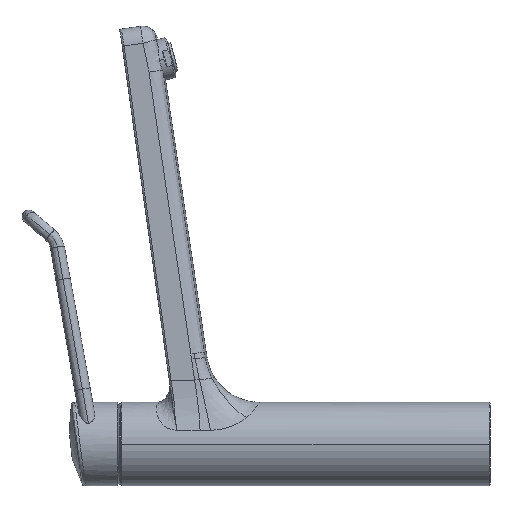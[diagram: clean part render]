
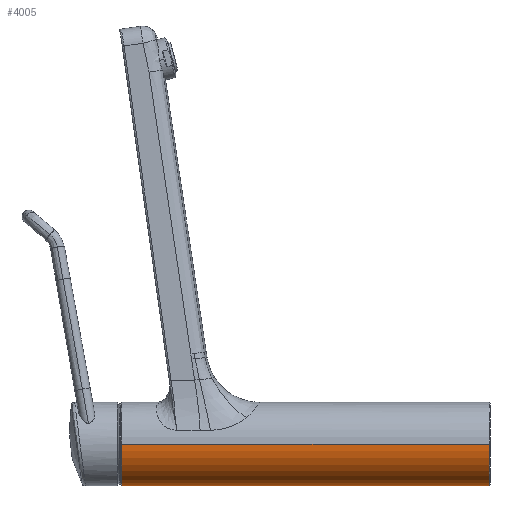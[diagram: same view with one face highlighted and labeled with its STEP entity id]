
A CAD part, left-side view. The second image highlights one B-rep face of the part: STEP entity #4005.
In plain terms, the highlighted cylindrical face has radius 24.25 mm (diameter 48.5 mm), a partial arc.
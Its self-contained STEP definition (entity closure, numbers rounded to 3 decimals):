
#31=DIRECTION('',(0.,-1.,0.));
#32=VECTOR('',#31,213.5);
#33=CARTESIAN_POINT('',(24.25,145.2,0.));
#34=LINE('',#33,#32);
#40=DIRECTION('',(0.,-1.,0.));
#41=VECTOR('',#40,213.5);
#42=CARTESIAN_POINT('',(-24.25,145.2,0.));
#43=LINE('',#42,#41);
#127=CARTESIAN_POINT('',(0.,145.2,0.));
#128=DIRECTION('',(0.,-1.,0.));
#129=DIRECTION('',(-1.,0.,0.));
#130=AXIS2_PLACEMENT_3D('',#127,#128,#129);
#132=CARTESIAN_POINT('',(0.,-68.3,0.));
#133=DIRECTION('',(0.,-1.,0.));
#134=DIRECTION('',(-1.,0.,0.));
#135=AXIS2_PLACEMENT_3D('',#132,#133,#134);
#3620=CARTESIAN_POINT('',(24.25,145.2,0.));
#3621=CARTESIAN_POINT('',(-24.25,145.2,0.));
#3622=VERTEX_POINT('',#3620);
#3623=VERTEX_POINT('',#3621);
#3628=CARTESIAN_POINT('',(-24.25,-68.3,0.));
#3629=VERTEX_POINT('',#3628);
#3630=CARTESIAN_POINT('',(24.25,-68.3,0.));
#3631=VERTEX_POINT('',#3630);
#3992=CARTESIAN_POINT('',(0.,156.425,0.));
#3993=DIRECTION('',(0.,-1.,0.));
#3994=DIRECTION('',(-1.,0.,0.));
#3995=AXIS2_PLACEMENT_3D('',#3992,#3993,#3994);
#3996=CYLINDRICAL_SURFACE('',#3995,24.25);
#3998=ORIENTED_EDGE('',*,*,#3997,.F.);
#3999=ORIENTED_EDGE('',*,*,#3963,.T.);
#4001=ORIENTED_EDGE('',*,*,#4000,.T.);
#4002=ORIENTED_EDGE('',*,*,#3959,.F.);
#4003=EDGE_LOOP('',(#3998,#3999,#4001,#4002));
#4004=FACE_OUTER_BOUND('',#4003,.F.);
#4005=ADVANCED_FACE('',(#4004),#3996,.T.);
#131=CIRCLE('',#130,24.25);
#136=CIRCLE('',#135,24.25);
#3959=EDGE_CURVE('',#3622,#3631,#34,.T.);
#3963=EDGE_CURVE('',#3623,#3629,#43,.T.);
#3997=EDGE_CURVE('',#3623,#3622,#131,.T.);
#4000=EDGE_CURVE('',#3629,#3631,#136,.T.);
